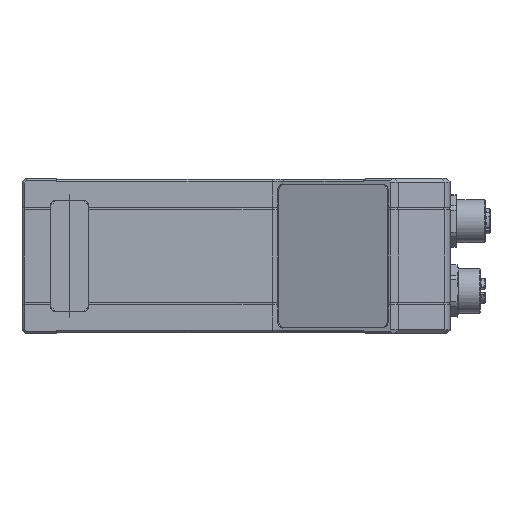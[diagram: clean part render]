
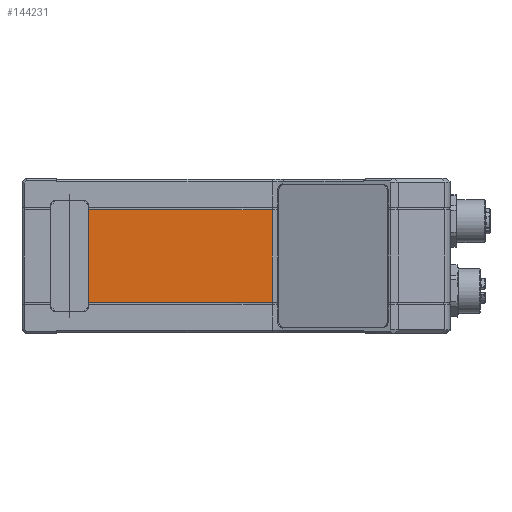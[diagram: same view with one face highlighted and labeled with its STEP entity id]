
A CAD part, front view. The second image highlights one B-rep face of the part: STEP entity #144231.
In plain terms, the highlighted planar face has unit normal (0, -1, 0).
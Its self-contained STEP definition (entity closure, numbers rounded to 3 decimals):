
#3004 = VECTOR ( 'NONE', #7238, 1000. ) ;
#3694 = CARTESIAN_POINT ( 'NONE',  ( 63.871, -5.5, -14.6 ) ) ;
#5195 = VERTEX_POINT ( 'NONE', #127283 ) ;
#7238 = DIRECTION ( 'NONE',  ( -1., 0., 0. ) ) ;
#11384 = EDGE_CURVE ( 'NONE', #86435, #5195, #114087, .T. ) ;
#14329 = AXIS2_PLACEMENT_3D ( 'NONE', #38243, #83773, #105959 ) ;
#14535 = ORIENTED_EDGE ( 'NONE', *, *, #11384, .T. ) ;
#16457 = DIRECTION ( 'NONE',  ( 0., 0., 1. ) ) ;
#16915 = FACE_OUTER_BOUND ( 'NONE', #87860, .T. ) ;
#26757 = EDGE_CURVE ( 'NONE', #138411, #36929, #106974, .T. ) ;
#30006 = CARTESIAN_POINT ( 'NONE',  ( 6., -5.5, -14.6 ) ) ;
#31475 = CARTESIAN_POINT ( 'NONE',  ( -14.715, -5.5, -14.6 ) ) ;
#36929 = VERTEX_POINT ( 'NONE', #141728 ) ;
#38243 = CARTESIAN_POINT ( 'NONE',  ( -15., -5.5, 24.5 ) ) ;
#44178 = CARTESIAN_POINT ( 'NONE',  ( 63.871, -5.5, 24.5 ) ) ;
#55122 = LINE ( 'NONE', #100064, #137548 ) ;
#58062 = DIRECTION ( 'NONE',  ( 0., 0., 1. ) ) ;
#67632 = ORIENTED_EDGE ( 'NONE', *, *, #129246, .F. ) ;
#74502 = CARTESIAN_POINT ( 'NONE',  ( 6., -5.5, -17.5 ) ) ;
#76352 = ORIENTED_EDGE ( 'NONE', *, *, #26757, .F. ) ;
#80914 = VECTOR ( 'NONE', #58062, 1000. ) ;
#83773 = DIRECTION ( 'NONE',  ( 0., 1., 0. ) ) ;
#85994 = ORIENTED_EDGE ( 'NONE', *, *, #131589, .T. ) ;
#86435 = VERTEX_POINT ( 'NONE', #3694 ) ;
#87860 = EDGE_LOOP ( 'NONE', ( #85994, #76352, #67632, #14535 ) ) ;
#100064 = CARTESIAN_POINT ( 'NONE',  ( -14.715, -5.5, 14.6 ) ) ;
#105959 = DIRECTION ( 'NONE',  ( -1., 0., 0. ) ) ;
#106974 = LINE ( 'NONE', #74502, #127617 ) ;
#114087 = LINE ( 'NONE', #44178, #80914 ) ;
#120562 = LINE ( 'NONE', #31475, #3004 ) ;
#127283 = CARTESIAN_POINT ( 'NONE',  ( 63.871, -5.5, 14.6 ) ) ;
#127617 = VECTOR ( 'NONE', #16457, 1000. ) ;
#129246 = EDGE_CURVE ( 'NONE', #86435, #138411, #120562, .T. ) ;
#131589 = EDGE_CURVE ( 'NONE', #5195, #36929, #55122, .T. ) ;
#137548 = VECTOR ( 'NONE', #144988, 1000. ) ;
#138411 = VERTEX_POINT ( 'NONE', #30006 ) ;
#139082 = PLANE ( 'NONE',  #14329 ) ;
#141728 = CARTESIAN_POINT ( 'NONE',  ( 6., -5.5, 14.6 ) ) ;
#144231 = ADVANCED_FACE ( 'NONE', ( #16915 ), #139082, .F. ) ;
#144988 = DIRECTION ( 'NONE',  ( -1., 0., 0. ) ) ;
